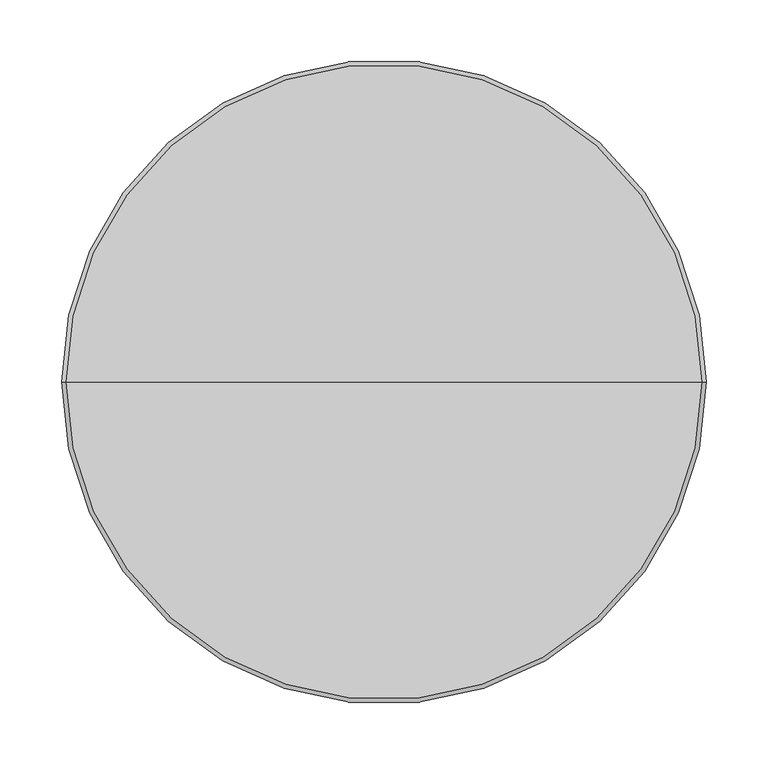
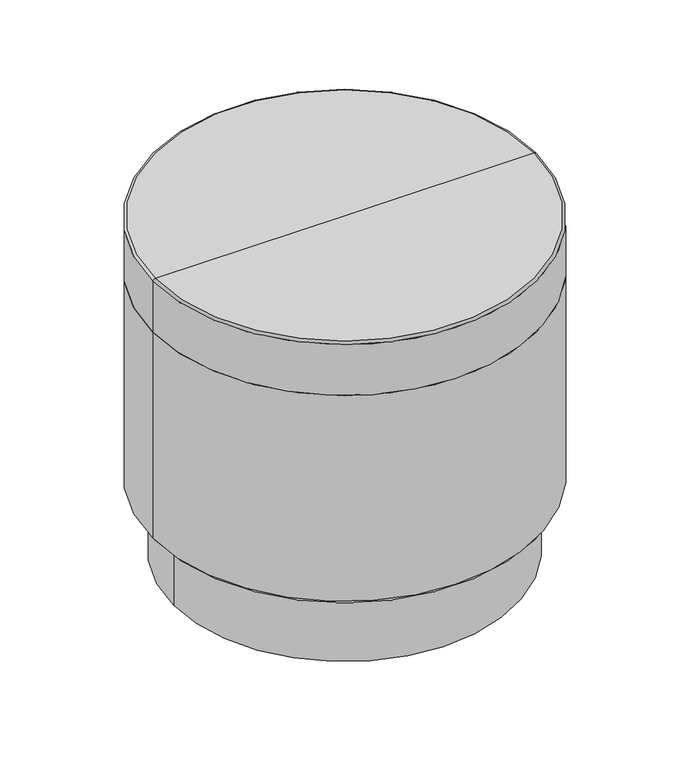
"""IFC4 building model written with IfcOpenShell, lengths in millimetres: furniture geometry, StanceHC-Drum_Table-Plinth_Base : 3-DRT20D20-U-PL."""

from ifc_helpers import new_model, si_unit, point, frame, frame_2d, origin, origin_with_axes, place, context, project, spatial, circle_curve, ellipse_curve, trimmed, segment, composite_curve, outline, extrude, source, transform, mapped, element, save
from ifc_brep_helpers import plane_surface, cylinder_surface, revolved_surface, advanced_brep


def furniture_5d18ae13(model_context):
    return source(origin(), model_context, "Body", "SolidModel", [
        extrude(outline(composite_curve([segment(trimmed(circle_curve(frame_2d((0.0, 199.3164845)), 12.7), [point((-12.7, 199.3164845))], [point((12.7, 199.3164845))], False, "CARTESIAN"), True, "CONTINUOUS"), segment(trimmed(circle_curve(frame_2d((0.0, 199.3164845)), 12.7), [point((12.7, 199.3164845))], [point((-12.7, 199.3164845))], False, "CARTESIAN"), True, "CONTINUOUS")], self_intersect=False)), origin_with_axes(), (0.0, 0.0, 1.0), 4.7625),
        extrude(outline(composite_curve([segment(trimmed(circle_curve(frame_2d((0.0, -199.3164845)), 12.7), [point((-12.7, -199.3164845))], [point((12.7, -199.3164845))], False, "CARTESIAN"), True, "CONTINUOUS"), segment(trimmed(circle_curve(frame_2d((0.0, -199.3164845)), 12.7), [point((12.7, -199.3164845))], [point((-12.7, -199.3164845))], False, "CARTESIAN"), True, "CONTINUOUS")], self_intersect=False)), origin_with_axes(), (0.0, 0.0, 1.0), 4.7625),
        extrude(outline(composite_curve([segment(trimmed(circle_curve(frame_2d((203.1996404, 0.0)), 12.7), [point((190.4996404, 0.0))], [point((215.8996404, 0.0))], False, "CARTESIAN"), True, "CONTINUOUS"), segment(trimmed(circle_curve(frame_2d((203.1996404, 0.0)), 12.7), [point((215.8996404, 0.0))], [point((190.4996404, 0.0))], False, "CARTESIAN"), True, "CONTINUOUS")], self_intersect=False)), origin_with_axes(), (0.0, 0.0, 1.0), 4.7625),
        extrude(outline(composite_curve([segment(trimmed(circle_curve(frame_2d((-203.1996404, 0.0)), 12.7), [point((-215.8996404, 0.0))], [point((-190.4996404, 0.0))], False, "CARTESIAN"), True, "CONTINUOUS"), segment(trimmed(circle_curve(frame_2d((-203.1996404, 0.0)), 12.7), [point((-190.4996404, 0.0))], [point((-215.8996404, 0.0))], False, "CARTESIAN"), True, "CONTINUOUS")], self_intersect=False)), origin_with_axes(), (0.0, 0.0, 1.0), 4.7625),
        advanced_brep(
        [(-255.5542756, 0.0, 106.3625), (255.5542756, 0.0, 106.3625), (231.7746404, 0.0, 106.3625), (-231.7746404, 0.0, 106.3625), (-255.5542756, 0.0, 111.125), (255.5542756, 0.0, 111.125), (0.0, 0.0, 111.125), (-231.7746404, 0.0, 4.7625), (231.7746404, 0.0, 4.7625), (0.0, 0.0, 4.7625)],
        [
            (0, 1, circle_curve(frame((0.0, 0.0, 106.3625), z_axis=(0.0, 0.0, -1.0), x_axis=(1.0, 0.0, 0.0)), 255.5542756)),
            (1, 2),
            (2, 3, circle_curve(frame((0.0, 0.0, 106.3625), z_axis=(0.0, 0.0, 1.0), x_axis=(1.0, 0.0, 0.0)), 231.7746404)),
            (3, 0),
            (1, 0, circle_curve(frame((0.0, 0.0, 106.3625), z_axis=(0.0, 0.0, -1.0), x_axis=(1.0, 0.0, 0.0)), 255.5542756)),
            (3, 2, circle_curve(frame((0.0, 0.0, 106.3625), z_axis=(0.0, 0.0, 1.0), x_axis=(1.0, 0.0, 0.0)), 231.7746404)),
            (4, 5, circle_curve(frame((0.0, 0.0, 111.125), z_axis=(0.0, 0.0, -1.0), x_axis=(1.0, 0.0, 0.0)), 255.5542756)),
            (5, 1, circle_curve(frame((255.5542756, 0.0, 108.74375), z_axis=(0.0, 1.0, 0.0), x_axis=(1.0, 0.0, 0.0)), 2.38125)),
            (0, 4, circle_curve(frame((-255.5542756, 0.0, 108.74375), z_axis=(0.0, 1.0, 0.0), x_axis=(-1.0, 0.0, 0.0)), 2.38125)),
            (5, 4, circle_curve(frame((0.0, 0.0, 111.125), z_axis=(0.0, 0.0, -1.0), x_axis=(1.0, 0.0, 0.0)), 255.5542756)),
            (6, 5),
            (4, 6),
            (7, 8, circle_curve(frame((0.0, 0.0, 4.7625), z_axis=(0.0, 0.0, -1.0), x_axis=(1.0, 0.0, 0.0)), 231.7746404)),
            (8, 9),
            (9, 7),
            (8, 7, circle_curve(frame((0.0, 0.0, 4.7625), z_axis=(0.0, 0.0, -1.0), x_axis=(1.0, 0.0, 0.0)), 231.7746404)),
            (2, 8),
            (7, 3),
        ],
        [
            plane_surface(frame((0.0, 0.0, 106.3625), z_axis=(0.0, 0.0, -1.0), x_axis=(1.0, 0.0, 0.0))),
            revolved_surface(trimmed(ellipse_curve(frame((255.5542756, 0.0, 108.74375), z_axis=(0.0, -1.0, 0.0), x_axis=(1.0, 0.0, 0.0)), 2.38125, 2.38125), [point((255.5542756, 0.0, 106.3625))], [point((255.5542756, 0.0, 111.125))], True, "CARTESIAN"), (0.0, 0.0, 165.1), (0.0, 0.0, 1.0)),
            plane_surface(frame((0.0, 0.0, 111.125), z_axis=(0.0, 0.0, 1.0), x_axis=(1.0, 0.0, 0.0))),
            plane_surface(frame((0.0, 0.0, 4.7625), z_axis=(0.0, 0.0, -1.0), x_axis=(1.0, 0.0, 0.0))),
            cylinder_surface(frame((0.0, 0.0, 165.1), z_axis=(0.0, 0.0, 1.0), x_axis=(1.0, 0.0, 0.0)), 231.7746404),
        ],
        [
            (0, [[1, 2, 3, 4]]),
            (0, [[5, -4, 6, -2]]),
            (1, [[7, 8, -1, 9]]),
            (1, [[10, -9, -5, -8]]),
            (2, [[11, -7, 12]]),
            (2, [[-12, -10, -11]]),
            (3, [[13, 14, 15]]),
            (3, [[16, -15, -14]]),
            (4, [[-3, 17, -13, 18]]),
            (4, [[-6, -18, -16, -17]]),
        ],
    ),
        advanced_brep(
        [(0.0, 0.0, 406.4), (260.35, 0.0, 406.4), (-260.35, 0.0, 406.4), (-260.35, 0.0, 111.125), (260.35, 0.0, 111.125), (0.0, 0.0, 111.125)],
        [
            (0, 1),
            (1, 2, circle_curve(frame((0.0, 0.0, 406.4), z_axis=(0.0, 0.0, 1.0), x_axis=(1.0, 0.0, 0.0)), 260.35)),
            (2, 0),
            (2, 1, circle_curve(frame((0.0, 0.0, 406.4), z_axis=(0.0, 0.0, 1.0), x_axis=(1.0, 0.0, 0.0)), 260.35)),
            (3, 4, circle_curve(frame((0.0, 0.0, 111.125), z_axis=(0.0, 0.0, -1.0), x_axis=(1.0, 0.0, 0.0)), 260.35)),
            (4, 5),
            (5, 3),
            (4, 3, circle_curve(frame((0.0, 0.0, 111.125), z_axis=(0.0, 0.0, -1.0), x_axis=(1.0, 0.0, 0.0)), 260.35)),
            (1, 4),
            (3, 2),
        ],
        [
            plane_surface(frame((0.0, 0.0, 406.4), z_axis=(0.0, 0.0, 1.0), x_axis=(1.0, 0.0, 0.0))),
            plane_surface(frame((0.0, 0.0, 111.125), z_axis=(0.0, 0.0, -1.0), x_axis=(1.0, 0.0, 0.0))),
            cylinder_surface(frame((0.0, 0.0, 558.8), z_axis=(0.0, 0.0, 1.0), x_axis=(1.0, 0.0, 0.0)), 260.35),
        ],
        [
            (0, [[1, 2, 3]]),
            (0, [[-3, 4, -1]]),
            (1, [[5, 6, 7]]),
            (1, [[8, -7, -6]]),
            (2, [[-2, 9, -5, 10]]),
            (2, [[-4, -10, -8, -9]]),
        ],
    ),
        advanced_brep(
        [(-260.35, 0.0, 406.4), (260.35, 0.0, 406.4), (0.0, 0.0, 406.4), (-260.35, 0.0, 479.4764933), (260.35, 0.0, 479.4764933), (-257.2264933, 0.0, 482.6), (257.2264933, 0.0, 482.6), (0.0, 0.0, 482.6)],
        [
            (0, 1, circle_curve(frame((0.0, 0.0, 406.4), z_axis=(0.0, 0.0, -1.0), x_axis=(1.0, 0.0, 0.0)), 260.35)),
            (1, 2),
            (2, 0),
            (1, 0, circle_curve(frame((0.0, 0.0, 406.4), z_axis=(0.0, 0.0, -1.0), x_axis=(1.0, 0.0, 0.0)), 260.35)),
            (3, 4, circle_curve(frame((0.0, 0.0, 479.4764933), z_axis=(0.0, 0.0, -1.0), x_axis=(1.0, 0.0, 0.0)), 260.35)),
            (4, 1),
            (0, 3),
            (4, 3, circle_curve(frame((0.0, 0.0, 479.4764933), z_axis=(0.0, 0.0, -1.0), x_axis=(1.0, 0.0, 0.0)), 260.35)),
            (5, 6, circle_curve(frame((0.0, 0.0, 482.6), z_axis=(0.0, 0.0, -1.0), x_axis=(1.0, 0.0, 0.0)), 257.2264933)),
            (6, 4, circle_curve(frame((257.2264933, 0.0, 479.4764933), z_axis=(0.0, 1.0, 0.0), x_axis=(1.0, 0.0, 0.0)), 3.1235067)),
            (3, 5, circle_curve(frame((-257.2264933, 0.0, 479.4764933), z_axis=(0.0, 1.0, 0.0), x_axis=(-1.0, 0.0, 0.0)), 3.1235067)),
            (6, 5, circle_curve(frame((0.0, 0.0, 482.6), z_axis=(0.0, 0.0, -1.0), x_axis=(1.0, 0.0, 0.0)), 257.2264933)),
            (7, 6),
            (5, 7),
        ],
        [
            plane_surface(frame((0.0, 0.0, 406.4), z_axis=(0.0, 0.0, -1.0), x_axis=(1.0, 0.0, 0.0))),
            cylinder_surface(frame((0.0, 0.0, 577.85), z_axis=(0.0, 0.0, 1.0), x_axis=(1.0, 0.0, 0.0)), 260.35),
            revolved_surface(trimmed(ellipse_curve(frame((257.2264933, 0.0, 479.4764933), z_axis=(0.0, -1.0, 0.0), x_axis=(1.0, 0.0, 0.0)), 3.1235067, 3.1235067), [point((260.35, 0.0, 479.4764933))], [point((257.2264933, 0.0, 482.6))], True, "CARTESIAN"), (0.0, 0.0, 577.85), (0.0, 0.0, 1.0)),
            plane_surface(frame((0.0, 0.0, 482.6), z_axis=(0.0, 0.0, 1.0), x_axis=(1.0, 0.0, 0.0))),
        ],
        [
            (0, [[1, 2, 3]]),
            (0, [[4, -3, -2]]),
            (1, [[5, 6, -1, 7]]),
            (1, [[8, -7, -4, -6]]),
            (2, [[9, 10, -5, 11]]),
            (2, [[12, -11, -8, -10]]),
            (3, [[13, -9, 14]]),
            (3, [[-14, -12, -13]]),
        ],
    ),
    ])


if __name__ == "__main__":
    model = new_model("IFC4")
    model_context = context("Model", 3, world=origin())
    ifc_project = project(units=[si_unit("LENGTHUNIT", "METRE", prefix="MILLI")], contexts=[model_context])
    site = spatial("IfcSite", under=ifc_project)
    building = spatial("IfcBuilding", under=site)
    placement = place(None, origin())
    furniture_shape = furniture_5d18ae13(model_context)
    element("IfcFurniture", 1, ObjectType="StanceHC-Drum_Table-Plinth_Base : 3-DRT20D20-U-PL", at=placement, inside=building, context=model_context, shape_type="MappedRepresentation", body=[
        mapped(furniture_shape, transform((0.0, 0.0, 0.0), x_axis=(1.0, 0.0, 0.0), y_axis=(0.0, 1.0, 0.0), z_axis=(0.0, 0.0, 1.0))),
    ])
    save(model, "model.ifc")
